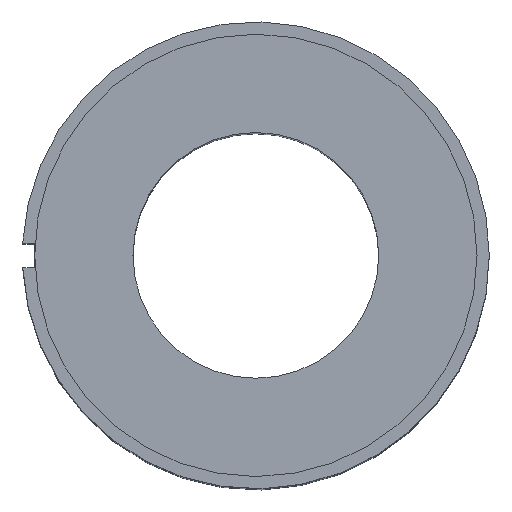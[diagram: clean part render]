
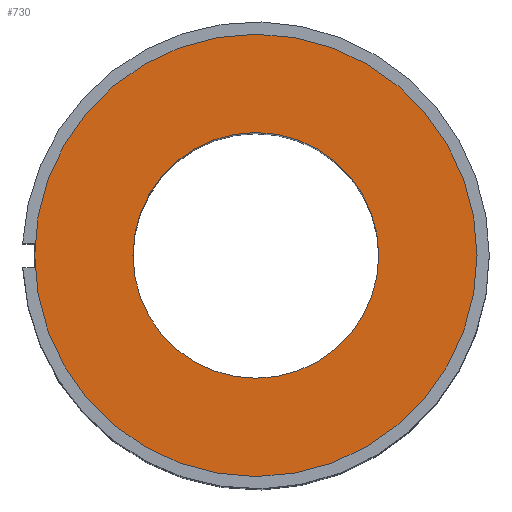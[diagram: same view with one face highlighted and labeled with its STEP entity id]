
A CAD part, top view. The second image highlights one B-rep face of the part: STEP entity #730.
In plain terms, the highlighted planar face has unit normal (0, 0, 1).
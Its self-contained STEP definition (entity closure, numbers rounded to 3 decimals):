
#91=CARTESIAN_POINT('',(-5.0,0.,29.));
#92=VERTEX_POINT('',#91);
#101=CARTESIAN_POINT('',(5.0,0.,29.));
#102=VERTEX_POINT('',#101);
#103=CARTESIAN_POINT('',(0.0,0.0,29.));
#104=DIRECTION('',(0.0,0.0,-1.0));
#105=DIRECTION('',(-1.0,0.0,0.0));
#106=AXIS2_PLACEMENT_3D('',#103,#104,#105);
#107=CIRCLE('',#106,5.0);
#108=EDGE_CURVE('',#102,#92,#107,.T.);
#614=CARTESIAN_POINT('',(-9.0,0.,29.));
#615=VERTEX_POINT('',#614);
#706=CARTESIAN_POINT('',(0.0,0.0,29.));
#707=DIRECTION('',(0.0,0.0,-1.0));
#708=DIRECTION('',(-1.0,0.0,0.0));
#709=AXIS2_PLACEMENT_3D('',#706,#707,#708);
#710=PLANE('',#709);
#711=CARTESIAN_POINT('',(0.0,0.0,29.));
#712=DIRECTION('',(0.0,0.0,-1.0));
#713=DIRECTION('',(1.0,0.0,0.0));
#714=AXIS2_PLACEMENT_3D('',#711,#712,#713);
#715=CIRCLE('',#714,9.0);
#716=EDGE_CURVE('',#615,#615,#715,.T.);
#717=ORIENTED_EDGE('',*,*,#716,.F.);
#718=EDGE_LOOP('',(#717));
#719=FACE_OUTER_BOUND('',#718,.T.);
#720=ORIENTED_EDGE('',*,*,#108,.T.);
#721=CARTESIAN_POINT('',(0.0,0.0,29.));
#722=DIRECTION('',(0.0,0.0,-1.0));
#723=DIRECTION('',(-1.0,0.0,0.0));
#724=AXIS2_PLACEMENT_3D('',#721,#722,#723);
#725=CIRCLE('',#724,5.0);
#726=EDGE_CURVE('',#92,#102,#725,.T.);
#727=ORIENTED_EDGE('',*,*,#726,.T.);
#728=EDGE_LOOP('',(#720,#727));
#729=FACE_BOUND('',#728,.T.);
#730=ADVANCED_FACE('',(#719,#729),#710,.F.);
